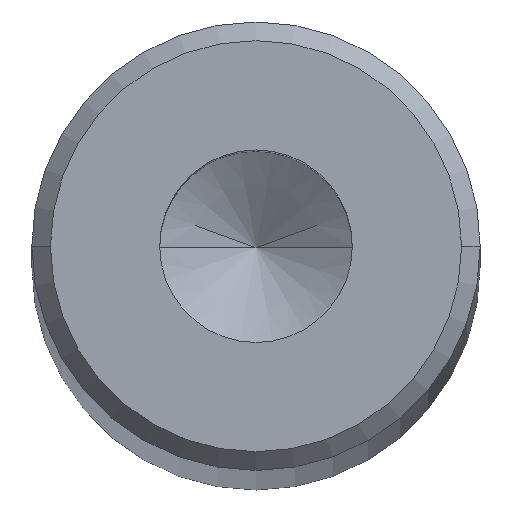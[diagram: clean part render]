
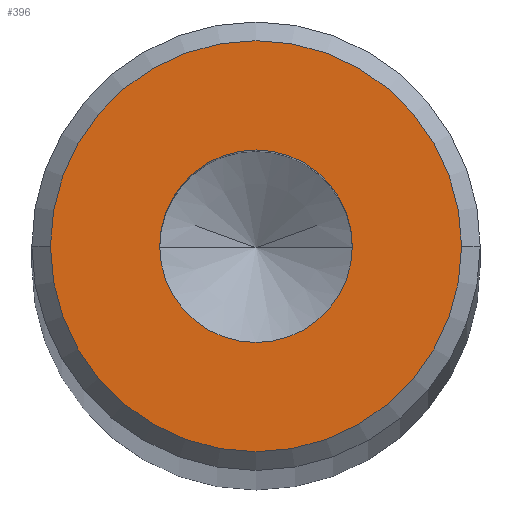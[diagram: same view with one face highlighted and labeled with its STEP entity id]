
A CAD part, top view. The second image highlights one B-rep face of the part: STEP entity #396.
In plain terms, the highlighted planar face has unit normal (0, 0, 1).
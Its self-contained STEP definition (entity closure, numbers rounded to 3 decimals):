
#141=CARTESIAN_POINT('',(2.577,0.0,150.0));
#142=VERTEX_POINT('',#141);
#151=CARTESIAN_POINT('',(-2.577,0.,150.0));
#152=VERTEX_POINT('',#151);
#153=CARTESIAN_POINT('',(0.0,0.0,150.0));
#154=DIRECTION('',(0.0,0.0,-1.0));
#155=DIRECTION('',(1.0,0.0,0.0));
#156=AXIS2_PLACEMENT_3D('',#153,#154,#155);
#157=CIRCLE('',#156,2.577);
#158=EDGE_CURVE('',#152,#142,#157,.T.);
#208=CARTESIAN_POINT('',(-5.5,0.0,150.0));
#209=VERTEX_POINT('',#208);
#225=CARTESIAN_POINT('',(5.5,0.,150.0));
#226=VERTEX_POINT('',#225);
#233=CARTESIAN_POINT('',(0.0,0.0,150.0));
#234=DIRECTION('',(0.0,0.0,-1.0));
#235=DIRECTION('',(-1.0,0.0,0.0));
#236=AXIS2_PLACEMENT_3D('',#233,#234,#235);
#237=CIRCLE('',#236,5.5);
#238=EDGE_CURVE('',#226,#209,#237,.T.);
#365=CARTESIAN_POINT('',(0.0,0.0,150.0));
#366=DIRECTION('',(0.0,0.0,-1.0));
#367=DIRECTION('',(-1.0,0.0,0.0));
#368=AXIS2_PLACEMENT_3D('',#365,#366,#367);
#369=CIRCLE('',#368,5.5);
#370=EDGE_CURVE('',#209,#226,#369,.T.);
#377=CARTESIAN_POINT('',(0.0,0.0,150.0));
#378=DIRECTION('',(0.0,0.0,1.0));
#379=DIRECTION('',(1.0,0.0,0.0));
#380=AXIS2_PLACEMENT_3D('',#377,#378,#379);
#381=PLANE('',#380);
#382=ORIENTED_EDGE('',*,*,#238,.F.);
#383=ORIENTED_EDGE('',*,*,#370,.F.);
#384=EDGE_LOOP('',(#382,#383));
#385=FACE_OUTER_BOUND('',#384,.T.);
#386=CARTESIAN_POINT('',(0.0,0.0,150.0));
#387=DIRECTION('',(0.0,0.0,-1.0));
#388=DIRECTION('',(1.0,0.0,0.0));
#389=AXIS2_PLACEMENT_3D('',#386,#387,#388);
#390=CIRCLE('',#389,2.577);
#391=EDGE_CURVE('',#142,#152,#390,.T.);
#392=ORIENTED_EDGE('',*,*,#391,.T.);
#393=ORIENTED_EDGE('',*,*,#158,.T.);
#394=EDGE_LOOP('',(#392,#393));
#395=FACE_BOUND('',#394,.T.);
#396=ADVANCED_FACE('',(#385,#395),#381,.T.);
